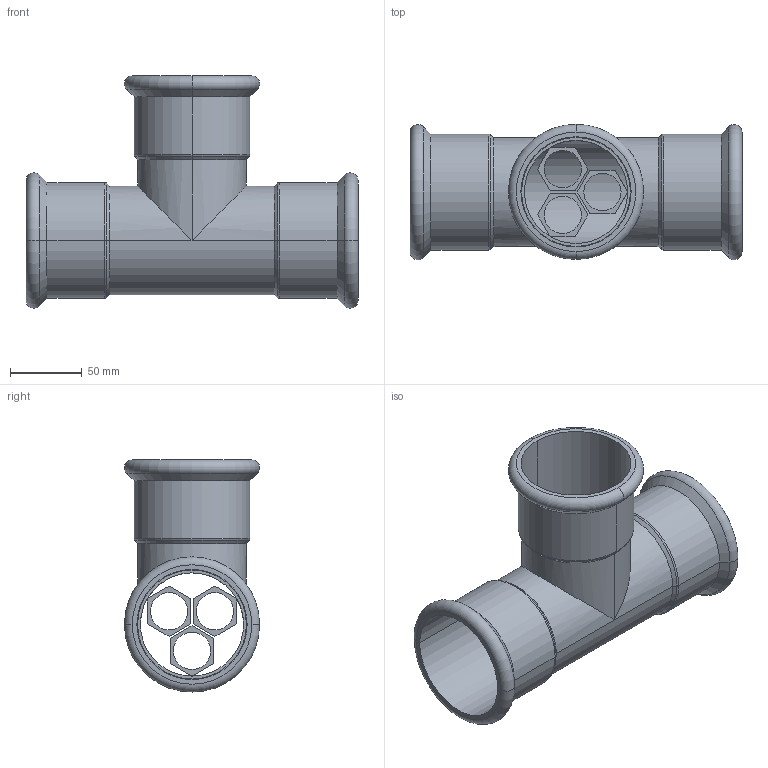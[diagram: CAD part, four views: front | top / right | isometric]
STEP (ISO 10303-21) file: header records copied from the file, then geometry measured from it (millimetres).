
FILE_DESCRIPTION(('OneSpaceDesigner STEP Export'),'2;1');
FILE_NAME('R2714 76x76x76.stp','2010-06-10T 8:44:34',(''),(''),'OneSpace Designer STEP processor for AP214 (Solid Model)','OneSpace Modeling 15.00A 14-Mar-2007 (C) CoCreate Software GmbH','');
FILE_SCHEMA(('AUTOMOTIVE_DESIGN { 1 0 10303 214 1 1 1 1 }'));
Length unit declared in the file: millimetre
Products named in the file (2): R2714_76x76x76
Assembly tree (1 placements, depth 2):
  R2714_76x76x76
    R2714_76x76x76
Bounding box: 232 x 94.48 x 162.24 mm (x, y, z)
Volume: 210792.1 mm3; surface area: 167050 mm2
Topology: 1 solids, 1 shells, 169 faces, 424 edges, 271 vertices
Faces by surface type: plane 90, cylinder 55, cone 12, torus 12
Entity records: 4423 total; most frequent: ORIENTED_EDGE 848, CARTESIAN_POINT 721, DIRECTION 637, EDGE_CURVE 424, VERTEX_POINT 271, VECTOR 263, LINE 263, EDGE_LOOP 205
